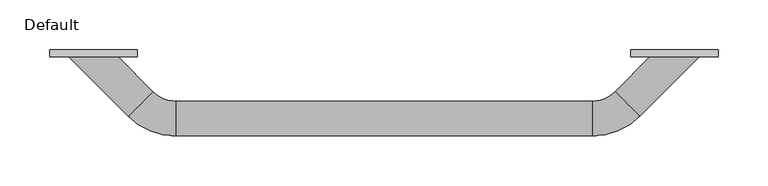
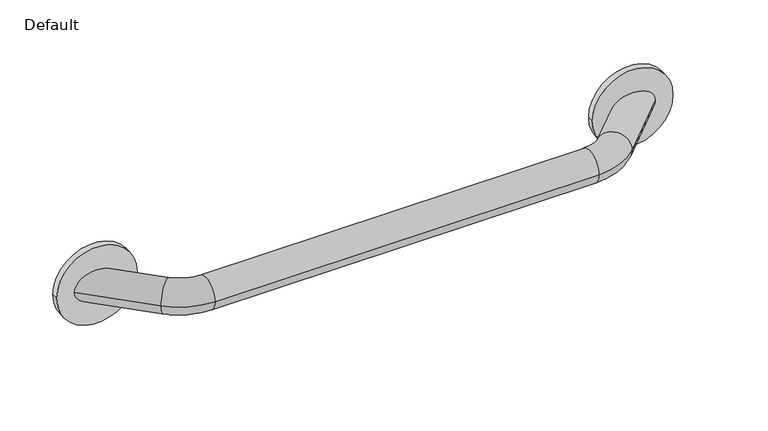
"""IFC4 building model written with IfcOpenShell, lengths in millimetres: proxy geometry, TSL_UK - TSLGR45 - Radius ADA Grab Bars - Nest - Shared : Default."""

from ifc_helpers import new_model, si_unit, point, frame, frame_2d, origin, place, context, project, spatial, circle_curve, ellipse_curve, trimmed, segment, composite_curve, outline, extrude, source, transform, mapped, element, save
from ifc_brep_helpers import plane_surface, cylinder_surface, revolved_surface, advanced_brep


def default_9fe8953b(model_context):
    return source(origin(), model_context, "Body", "SolidModel", [
        advanced_brep(
        [(-232.4721507, -42.2791677, 0.0371434), (-257.2206909, -67.0277079, -0.0915364), (-317.0483988, -7.2, -0.0915364), (-267.5513184, -7.2, 0.0371434), (-209.486733, -51.8000394, 0.0371434), (-209.486733, -86.7997606, -0.0915364), (209.486733, -51.8000394, 0.0371434), (209.486733, -86.7997606, -0.0915364), (232.4721507, -42.2791677, 0.0371434), (257.2206909, -67.0277079, -0.0915364), (267.5513184, -7.2, 0.0371434), (317.0483988, -7.2, -0.0915364)],
        [
            (0, 1, circle_curve(frame((-244.8464915, -54.6535085, 0.0), z_axis=(-0.7071067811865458, 0.7071067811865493, 0.0), x_axis=(0.7071067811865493, 0.7071067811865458, 0.0)), 17.5)),
            (1, 2),
            (2, 3, ellipse_curve(frame((-292.3, -7.2, 0.0), z_axis=(0.0, -1.0, 0.0), x_axis=(-1.0, 0.0, 0.0)), 24.7487373, 17.5)),
            (3, 0),
            (0, 4, circle_curve(frame((-209.486733, -19.29375, 0.0371434), z_axis=(0.0, 0.0, 1.0), x_axis=(-0.7071067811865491, -0.7071067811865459, 0.0)), 32.5062894)),
            (4, 5, circle_curve(frame((-209.486733, -69.3, 0.0), z_axis=(-1.0, 0.0, 0.0), x_axis=(0.0, 1.0, 0.0)), 17.5)),
            (5, 1, circle_curve(frame((-209.486733, -19.29375, -0.0915364), z_axis=(0.0, 0.0, -1.0), x_axis=(-0.7071067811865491, -0.7071067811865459, 0.0)), 67.5060106)),
            (4, 6),
            (6, 7, circle_curve(frame((209.486733, -69.3, 0.0), z_axis=(-1.0, 0.0, 0.0), x_axis=(0.0, 1.0, 0.0)), 17.5)),
            (7, 5),
            (6, 8, circle_curve(frame((209.486733, -19.29375, 0.0371434), z_axis=(0.0, 0.0, 1.0), x_axis=(0.0, -1.0, 0.0)), 32.5062894)),
            (8, 9, circle_curve(frame((244.8464915, -54.6535085, 0.0), z_axis=(-0.7071067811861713, -0.7071067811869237, 0.0), x_axis=(-0.7071067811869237, 0.7071067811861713, 0.0)), 17.5)),
            (9, 7, circle_curve(frame((209.486733, -19.29375, -0.0915364), z_axis=(0.0, 0.0, -1.0), x_axis=(0.0, -1.0, 0.0)), 67.5060106)),
            (8, 10),
            (10, 11, ellipse_curve(frame((292.3, -7.2, 0.0), z_axis=(0.0, -1.0, 0.0), x_axis=(-1.0, 0.0, 0.0)), 24.7487373, 17.5)),
            (11, 9),
            (2, 3, ellipse_curve(frame((-292.3, -7.2, 0.0), z_axis=(0.0, 1.0, 0.0), x_axis=(-1.0, 0.0, 0.0)), 24.7487373, 17.5)),
            (10, 11, ellipse_curve(frame((292.3, -7.2, 0.0), z_axis=(0.0, 1.0, 0.0), x_axis=(-1.0, 0.0, 0.0)), 24.7487373, 17.5)),
            (1, 0, circle_curve(frame((-244.8464915, -54.6535085, 0.0), z_axis=(-0.7071067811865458, 0.7071067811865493, 0.0), x_axis=(0.7071067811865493, 0.7071067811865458, 0.0)), 17.5)),
            (5, 4, circle_curve(frame((-209.486733, -69.3, 0.0), z_axis=(-1.0, 0.0, 0.0), x_axis=(0.0, 1.0, 0.0)), 17.5)),
            (7, 6, circle_curve(frame((209.486733, -69.3, 0.0), z_axis=(-1.0, 0.0, 0.0), x_axis=(0.0, 1.0, 0.0)), 17.5)),
            (9, 8, circle_curve(frame((244.8464915, -54.6535085, 0.0), z_axis=(-0.7071067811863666, -0.7071067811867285, 0.0), x_axis=(-0.7071067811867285, 0.7071067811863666, 0.0)), 17.5)),
        ],
        [
            cylinder_surface(frame((-368.8, 69.3, 0.0), z_axis=(-0.7071067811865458, 0.7071067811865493, 0.0), x_axis=(0.7071067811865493, 0.7071067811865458, 0.0)), 17.5),
            revolved_surface(trimmed(ellipse_curve(frame((-244.8464915, -54.6535085, 0.0), z_axis=(-0.7071067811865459, 0.7071067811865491, 0.0), x_axis=(0.7071067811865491, 0.7071067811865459, 0.0)), 17.5, 17.5), [point((-232.4721507, -42.2791677, 0.0371434))], [point((-257.2206909, -67.0277079, -0.0915364))], True, "CARTESIAN"), (-209.486733, -19.29375, 0.0), (0.0, 0.0, 1.0)),
            cylinder_surface(frame((-209.486733, -69.3, 0.0), z_axis=(-1.0, 0.0, 0.0), x_axis=(0.0, 1.0, 0.0)), 17.5),
            revolved_surface(trimmed(ellipse_curve(frame((209.486733, -69.3, 0.0), z_axis=(-1.0, 0.0, 0.0), x_axis=(0.0, 1.0, 0.0)), 17.5, 17.5), [point((209.486733, -51.8000394, 0.0371434))], [point((209.486733, -86.7997606, -0.0915364))], True, "CARTESIAN"), (209.486733, -19.29375, 0.0), (0.0, 0.0, 1.0)),
            cylinder_surface(frame((244.8464915, -54.6535085, 0.0), z_axis=(-0.7071067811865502, -0.7071067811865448, 0.0), x_axis=(-0.7071067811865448, 0.7071067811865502, 0.0)), 17.5),
            plane_surface(frame((-438.1, -7.2, 44.2), z_axis=(0.0, 1.0, 0.0), x_axis=(0.0, 0.0, -1.0))),
            revolved_surface(trimmed(ellipse_curve(frame((-244.8464915, -54.6535085, 0.0), z_axis=(-0.7071067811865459, 0.7071067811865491, 0.0), x_axis=(0.7071067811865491, 0.7071067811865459, 0.0)), 17.5, 17.5), [point((-257.2206909, -67.0277079, -0.0915364))], [point((-232.4721507, -42.2791677, 0.0371434))], True, "CARTESIAN"), (-209.486733, -19.29375, 0.0), (0.0, 0.0, 1.0)),
            revolved_surface(trimmed(ellipse_curve(frame((209.486733, -69.3, 0.0), z_axis=(-1.0, 0.0, 0.0), x_axis=(0.0, 1.0, 0.0)), 17.5, 17.5), [point((209.486733, -86.7997606, -0.0915364))], [point((209.486733, -51.8000394, 0.0371434))], True, "CARTESIAN"), (209.486733, -19.29375, 0.0), (0.0, 0.0, 1.0)),
        ],
        [
            (0, [[1, 2, 3, 4]]),
            (1, [[-1, 5, 6, 7]]),
            (2, [[-6, 8, 9, 10]]),
            (3, [[-9, 11, 12, 13]]),
            (4, [[-12, 14, 15, 16]]),
            (5, [[-3, 17]]),
            (5, [[-15, 18]]),
            (0, [[19, -4, -17, -2]]),
            (6, [[-7, 20, -5, -19]]),
            (2, [[-8, -20, -10, 21]]),
            (7, [[-13, 22, -11, -21]]),
            (4, [[-22, -16, -18, -14]]),
        ],
    ),
        extrude(outline(composite_curve([segment(trimmed(circle_curve(frame_2d((0.0, 292.3)), 44.0), [point((0.0, 248.3))], [point((0.0, 336.3))], False, "CARTESIAN"), True, "CONTINUOUS"), segment(trimmed(circle_curve(frame_2d((0.0, 292.3)), 44.0), [point((0.0, 336.3))], [point((0.0, 248.3))], False, "CARTESIAN"), True, "CONTINUOUS")], self_intersect=False)), frame((0.0, -7.2, 0.0), z_axis=(0.0, 1.0, 0.0), x_axis=(0.0, 0.0, 1.0)), (0.0, 0.0, 1.0), 7.2),
        extrude(outline(composite_curve([segment(trimmed(circle_curve(frame_2d((0.0, -292.3)), 44.0), [point((0.0, -336.3))], [point((0.0, -248.3))], False, "CARTESIAN"), True, "CONTINUOUS"), segment(trimmed(circle_curve(frame_2d((0.0, -292.3)), 44.0), [point((0.0, -248.3))], [point((0.0, -336.3))], False, "CARTESIAN"), True, "CONTINUOUS")], self_intersect=False)), frame((0.0, -7.2, 0.0), z_axis=(0.0, 1.0, 0.0), x_axis=(0.0, 0.0, 1.0)), (0.0, 0.0, 1.0), 7.2),
    ])


if __name__ == "__main__":
    model = new_model("IFC4")
    model_context = context("Model", 3, world=origin())
    ifc_project = project(units=[si_unit("LENGTHUNIT", "METRE", prefix="MILLI")], contexts=[model_context])
    site = spatial("IfcSite", under=ifc_project)
    building = spatial("IfcBuilding", under=site)
    placement = place(None, origin())
    default_shape = default_9fe8953b(model_context)
    element("IfcBuildingElementProxy", 1, Name="TSL_UK - TSLGR45 - Radius ADA Grab Bars - Nest - Shared : Default", ObjectType="TSL_UK - TSLGR45 - Radius ADA Grab Bars - Nest - Shared : Default", at=placement, inside=building, context=model_context, shape_type="MappedRepresentation", body=[
        mapped(default_shape, transform((0.0, 0.0, 0.0), x_axis=(1.0, 0.0, 0.0), y_axis=(0.0, 1.0, 0.0), z_axis=(0.0, 0.0, 1.0))),
    ])
    save(model, "model.ifc")
